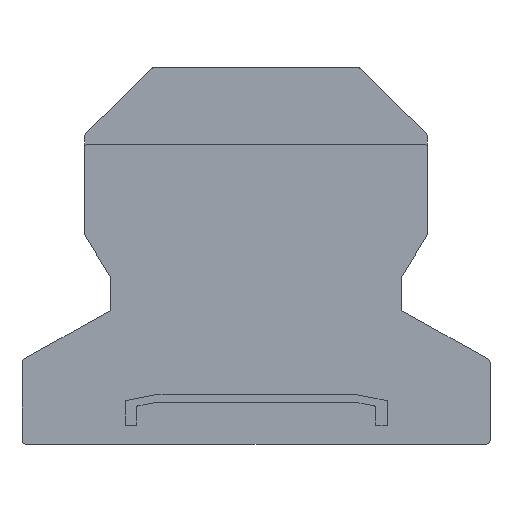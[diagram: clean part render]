
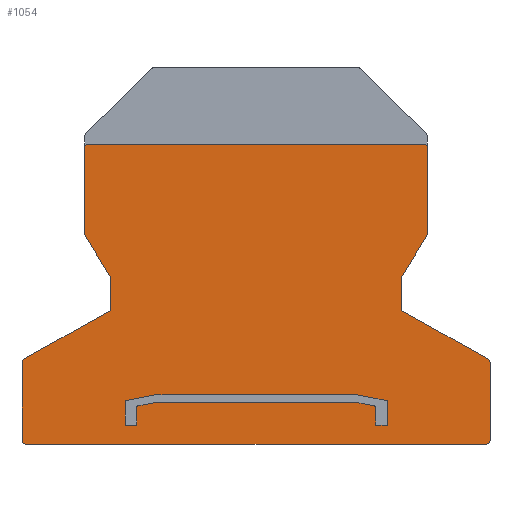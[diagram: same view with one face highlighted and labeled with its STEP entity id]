
A CAD part, top view. The second image highlights one B-rep face of the part: STEP entity #1054.
In plain terms, the highlighted planar face has unit normal (0, 0, 1).
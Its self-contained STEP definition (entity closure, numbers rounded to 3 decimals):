
#247=CARTESIAN_POINT('',(22.112,-10.6,0.9));
#248=DIRECTION('',(0.,0.,1.));
#249=DIRECTION('',(1.,0.,0.));
#250=AXIS2_PLACEMENT_3D('',#247,#248,#249);
#252=DIRECTION('',(0.,1.,0.));
#253=VECTOR('',#252,11.395);
#254=CARTESIAN_POINT('',(22.612,-21.995,0.9));
#255=LINE('',#254,#253);
#256=DIRECTION('',(0.525,0.851,0.));
#257=VECTOR('',#256,6.443);
#258=CARTESIAN_POINT('',(19.229,-27.478,0.9));
#259=LINE('',#258,#257);
#260=DIRECTION('',(0.,1.,0.));
#261=VECTOR('',#260,4.51);
#262=CARTESIAN_POINT('',(19.229,-31.988,0.9));
#263=LINE('',#262,#261);
#264=DIRECTION('',(-0.871,0.492,0.));
#265=VECTOR('',#264,13.037);
#266=CARTESIAN_POINT('',(30.583,-38.397,0.9));
#267=LINE('',#266,#265);
#268=CARTESIAN_POINT('',(30.337,-38.833,0.9));
#269=DIRECTION('',(0.,0.,1.));
#270=DIRECTION('',(1.,0.,0.));
#271=AXIS2_PLACEMENT_3D('',#268,#269,#270);
#273=DIRECTION('',(0.,1.,0.));
#274=VECTOR('',#273,10.267);
#275=CARTESIAN_POINT('',(30.837,-49.1,0.9));
#276=LINE('',#275,#274);
#277=CARTESIAN_POINT('',(30.337,-49.1,0.9));
#278=DIRECTION('',(0.,0.,1.));
#279=DIRECTION('',(0.,-1.,0.));
#280=AXIS2_PLACEMENT_3D('',#277,#278,#279);
#282=DIRECTION('',(1.,0.,0.));
#283=VECTOR('',#282,60.674);
#284=CARTESIAN_POINT('',(-30.337,-49.6,0.9));
#285=LINE('',#284,#283);
#286=CARTESIAN_POINT('',(-30.337,-49.1,0.9));
#287=DIRECTION('',(0.,0.,1.));
#288=DIRECTION('',(-1.,0.,0.));
#289=AXIS2_PLACEMENT_3D('',#286,#287,#288);
#291=DIRECTION('',(0.,-1.,0.));
#292=VECTOR('',#291,10.267);
#293=CARTESIAN_POINT('',(-30.837,-38.833,0.9));
#294=LINE('',#293,#292);
#295=CARTESIAN_POINT('',(-30.337,-38.833,0.9));
#296=DIRECTION('',(0.,0.,1.));
#297=DIRECTION('',(-0.492,0.871,0.));
#298=AXIS2_PLACEMENT_3D('',#295,#296,#297);
#300=DIRECTION('',(-0.871,-0.492,0.));
#301=VECTOR('',#300,13.037);
#302=CARTESIAN_POINT('',(-19.229,-31.988,0.9));
#303=LINE('',#302,#301);
#304=DIRECTION('',(0.,-1.,0.));
#305=VECTOR('',#304,4.51);
#306=CARTESIAN_POINT('',(-19.229,-27.478,0.9));
#307=LINE('',#306,#305);
#308=DIRECTION('',(0.525,-0.851,0.));
#309=VECTOR('',#308,6.443);
#310=CARTESIAN_POINT('',(-22.612,-21.995,0.9));
#311=LINE('',#310,#309);
#312=DIRECTION('',(0.,-1.,0.));
#313=VECTOR('',#312,11.395);
#314=CARTESIAN_POINT('',(-22.612,-10.6,0.9));
#315=LINE('',#314,#313);
#316=CARTESIAN_POINT('',(-22.112,-10.6,0.9));
#317=DIRECTION('',(0.,0.,1.));
#318=DIRECTION('',(0.,1.,0.));
#319=AXIS2_PLACEMENT_3D('',#316,#317,#318);
#321=DIRECTION('',(-1.,0.,0.));
#322=VECTOR('',#321,44.225);
#323=CARTESIAN_POINT('',(22.112,-10.1,0.9));
#324=LINE('',#323,#322);
#325=DIRECTION('',(1.,0.,0.));
#326=VECTOR('',#325,1.5);
#327=CARTESIAN_POINT('',(-17.213,-47.1,0.9));
#328=LINE('',#327,#326);
#329=DIRECTION('',(0.,1.,0.));
#330=VECTOR('',#329,2.5);
#331=CARTESIAN_POINT('',(-15.713,-47.1,0.9));
#332=LINE('',#331,#330);
#333=DIRECTION('',(0.981,0.196,0.));
#334=VECTOR('',#333,2.55);
#335=CARTESIAN_POINT('',(-15.713,-44.6,0.9));
#336=LINE('',#335,#334);
#337=DIRECTION('',(1.,0.,0.));
#338=VECTOR('',#337,26.5);
#339=CARTESIAN_POINT('',(-13.213,-44.1,0.9));
#340=LINE('',#339,#338);
#341=DIRECTION('',(0.981,-0.196,0.));
#342=VECTOR('',#341,2.55);
#343=CARTESIAN_POINT('',(13.287,-44.1,0.9));
#344=LINE('',#343,#342);
#345=DIRECTION('',(0.,-1.,0.));
#346=VECTOR('',#345,2.5);
#347=CARTESIAN_POINT('',(15.787,-44.6,0.9));
#348=LINE('',#347,#346);
#349=DIRECTION('',(1.,0.,0.));
#350=VECTOR('',#349,1.5);
#351=CARTESIAN_POINT('',(15.787,-47.1,0.9));
#352=LINE('',#351,#350);
#353=DIRECTION('',(0.,1.,0.));
#354=VECTOR('',#353,3.22);
#355=CARTESIAN_POINT('',(17.287,-47.1,0.9));
#356=LINE('',#355,#354);
#357=DIRECTION('',(-0.981,0.196,0.));
#358=VECTOR('',#357,3.978);
#359=CARTESIAN_POINT('',(17.287,-43.88,0.9));
#360=LINE('',#359,#358);
#361=DIRECTION('',(-1.,0.,0.));
#362=VECTOR('',#361,26.698);
#363=CARTESIAN_POINT('',(13.386,-43.1,0.9));
#364=LINE('',#363,#362);
#365=DIRECTION('',(-0.981,-0.196,0.));
#366=VECTOR('',#365,3.978);
#367=CARTESIAN_POINT('',(-13.312,-43.1,0.9));
#368=LINE('',#367,#366);
#369=DIRECTION('',(0.,-1.,0.));
#370=VECTOR('',#369,3.22);
#371=CARTESIAN_POINT('',(-17.213,-43.88,0.9));
#372=LINE('',#371,#370);
#565=CARTESIAN_POINT('',(22.612,-10.6,0.9));
#566=CARTESIAN_POINT('',(22.112,-10.1,0.9));
#567=VERTEX_POINT('',#565);
#568=VERTEX_POINT('',#566);
#569=CARTESIAN_POINT('',(-22.112,-10.1,0.9));
#570=VERTEX_POINT('',#569);
#571=CARTESIAN_POINT('',(-22.612,-10.6,0.9));
#572=VERTEX_POINT('',#571);
#573=CARTESIAN_POINT('',(-22.612,-21.995,0.9));
#574=VERTEX_POINT('',#573);
#575=CARTESIAN_POINT('',(-19.229,-27.478,0.9));
#576=VERTEX_POINT('',#575);
#577=CARTESIAN_POINT('',(-19.229,-31.988,0.9));
#578=VERTEX_POINT('',#577);
#579=CARTESIAN_POINT('',(-30.583,-38.397,0.9));
#580=VERTEX_POINT('',#579);
#581=CARTESIAN_POINT('',(-30.837,-38.833,0.9));
#582=VERTEX_POINT('',#581);
#583=CARTESIAN_POINT('',(-30.837,-49.1,0.9));
#584=VERTEX_POINT('',#583);
#585=CARTESIAN_POINT('',(-30.337,-49.6,0.9));
#586=VERTEX_POINT('',#585);
#587=CARTESIAN_POINT('',(30.337,-49.6,0.9));
#588=VERTEX_POINT('',#587);
#589=CARTESIAN_POINT('',(30.837,-49.1,0.9));
#590=VERTEX_POINT('',#589);
#591=CARTESIAN_POINT('',(30.837,-38.833,0.9));
#592=VERTEX_POINT('',#591);
#593=CARTESIAN_POINT('',(30.583,-38.397,0.9));
#594=VERTEX_POINT('',#593);
#595=CARTESIAN_POINT('',(19.229,-31.988,0.9));
#596=VERTEX_POINT('',#595);
#597=CARTESIAN_POINT('',(19.229,-27.478,0.9));
#598=VERTEX_POINT('',#597);
#599=CARTESIAN_POINT('',(22.612,-21.995,0.9));
#600=VERTEX_POINT('',#599);
#673=CARTESIAN_POINT('',(-17.213,-47.1,0.9));
#674=CARTESIAN_POINT('',(-15.713,-47.1,0.9));
#675=VERTEX_POINT('',#673);
#676=VERTEX_POINT('',#674);
#677=CARTESIAN_POINT('',(-15.713,-44.6,0.9));
#678=VERTEX_POINT('',#677);
#679=CARTESIAN_POINT('',(-13.213,-44.1,0.9));
#680=VERTEX_POINT('',#679);
#681=CARTESIAN_POINT('',(13.287,-44.1,0.9));
#682=VERTEX_POINT('',#681);
#683=CARTESIAN_POINT('',(15.787,-44.6,0.9));
#684=VERTEX_POINT('',#683);
#685=CARTESIAN_POINT('',(15.787,-47.1,0.9));
#686=VERTEX_POINT('',#685);
#687=CARTESIAN_POINT('',(17.287,-47.1,0.9));
#688=VERTEX_POINT('',#687);
#689=CARTESIAN_POINT('',(17.287,-43.88,0.9));
#690=VERTEX_POINT('',#689);
#691=CARTESIAN_POINT('',(13.386,-43.1,0.9));
#692=VERTEX_POINT('',#691);
#693=CARTESIAN_POINT('',(-13.312,-43.1,0.9));
#694=VERTEX_POINT('',#693);
#695=CARTESIAN_POINT('',(-17.213,-43.88,0.9));
#696=VERTEX_POINT('',#695);
#988=CARTESIAN_POINT('',(0.,0.,0.9));
#989=DIRECTION('',(0.,0.,1.));
#990=DIRECTION('',(1.,0.,0.));
#991=AXIS2_PLACEMENT_3D('',#988,#989,#990);
#992=PLANE('',#991);
#993=ORIENTED_EDGE('',*,*,#753,.F.);
#995=ORIENTED_EDGE('',*,*,#994,.F.);
#997=ORIENTED_EDGE('',*,*,#996,.F.);
#999=ORIENTED_EDGE('',*,*,#998,.F.);
#1001=ORIENTED_EDGE('',*,*,#1000,.F.);
#1003=ORIENTED_EDGE('',*,*,#1002,.F.);
#1005=ORIENTED_EDGE('',*,*,#1004,.F.);
#1007=ORIENTED_EDGE('',*,*,#1006,.F.);
#1009=ORIENTED_EDGE('',*,*,#1008,.F.);
#1011=ORIENTED_EDGE('',*,*,#1010,.F.);
#1013=ORIENTED_EDGE('',*,*,#1012,.F.);
#1015=ORIENTED_EDGE('',*,*,#1014,.F.);
#1017=ORIENTED_EDGE('',*,*,#1016,.F.);
#1019=ORIENTED_EDGE('',*,*,#1018,.F.);
#1021=ORIENTED_EDGE('',*,*,#1020,.F.);
#1023=ORIENTED_EDGE('',*,*,#1022,.F.);
#1024=ORIENTED_EDGE('',*,*,#876,.F.);
#1025=ORIENTED_EDGE('',*,*,#859,.F.);
#1026=EDGE_LOOP('',(#993,#995,#997,#999,#1001,#1003,#1005,#1007,#1009,#1011,
#1013,#1015,#1017,#1019,#1021,#1023,#1024,#1025));
#1027=FACE_OUTER_BOUND('',#1026,.F.);
#1029=ORIENTED_EDGE('',*,*,#1028,.T.);
#1031=ORIENTED_EDGE('',*,*,#1030,.T.);
#1033=ORIENTED_EDGE('',*,*,#1032,.T.);
#1035=ORIENTED_EDGE('',*,*,#1034,.T.);
#1037=ORIENTED_EDGE('',*,*,#1036,.T.);
#1039=ORIENTED_EDGE('',*,*,#1038,.T.);
#1041=ORIENTED_EDGE('',*,*,#1040,.T.);
#1043=ORIENTED_EDGE('',*,*,#1042,.T.);
#1045=ORIENTED_EDGE('',*,*,#1044,.T.);
#1047=ORIENTED_EDGE('',*,*,#1046,.T.);
#1049=ORIENTED_EDGE('',*,*,#1048,.T.);
#1051=ORIENTED_EDGE('',*,*,#1050,.T.);
#1052=EDGE_LOOP('',(#1029,#1031,#1033,#1035,#1037,#1039,#1041,#1043,#1045,#1047,
#1049,#1051));
#1053=FACE_BOUND('',#1052,.F.);
#1054=ADVANCED_FACE('',(#1027,#1053),#992,.T.);
#251=CIRCLE('',#250,0.5);
#272=CIRCLE('',#271,0.5);
#281=CIRCLE('',#280,0.5);
#290=CIRCLE('',#289,0.5);
#299=CIRCLE('',#298,0.5);
#320=CIRCLE('',#319,0.5);
#753=EDGE_CURVE('',#567,#568,#251,.T.);
#859=EDGE_CURVE('',#568,#570,#324,.T.);
#876=EDGE_CURVE('',#570,#572,#320,.T.);
#994=EDGE_CURVE('',#600,#567,#255,.T.);
#996=EDGE_CURVE('',#598,#600,#259,.T.);
#998=EDGE_CURVE('',#596,#598,#263,.T.);
#1000=EDGE_CURVE('',#594,#596,#267,.T.);
#1002=EDGE_CURVE('',#592,#594,#272,.T.);
#1004=EDGE_CURVE('',#590,#592,#276,.T.);
#1006=EDGE_CURVE('',#588,#590,#281,.T.);
#1008=EDGE_CURVE('',#586,#588,#285,.T.);
#1010=EDGE_CURVE('',#584,#586,#290,.T.);
#1012=EDGE_CURVE('',#582,#584,#294,.T.);
#1014=EDGE_CURVE('',#580,#582,#299,.T.);
#1016=EDGE_CURVE('',#578,#580,#303,.T.);
#1018=EDGE_CURVE('',#576,#578,#307,.T.);
#1020=EDGE_CURVE('',#574,#576,#311,.T.);
#1022=EDGE_CURVE('',#572,#574,#315,.T.);
#1028=EDGE_CURVE('',#675,#676,#328,.T.);
#1030=EDGE_CURVE('',#676,#678,#332,.T.);
#1032=EDGE_CURVE('',#678,#680,#336,.T.);
#1034=EDGE_CURVE('',#680,#682,#340,.T.);
#1036=EDGE_CURVE('',#682,#684,#344,.T.);
#1038=EDGE_CURVE('',#684,#686,#348,.T.);
#1040=EDGE_CURVE('',#686,#688,#352,.T.);
#1042=EDGE_CURVE('',#688,#690,#356,.T.);
#1044=EDGE_CURVE('',#690,#692,#360,.T.);
#1046=EDGE_CURVE('',#692,#694,#364,.T.);
#1048=EDGE_CURVE('',#694,#696,#368,.T.);
#1050=EDGE_CURVE('',#696,#675,#372,.T.);
